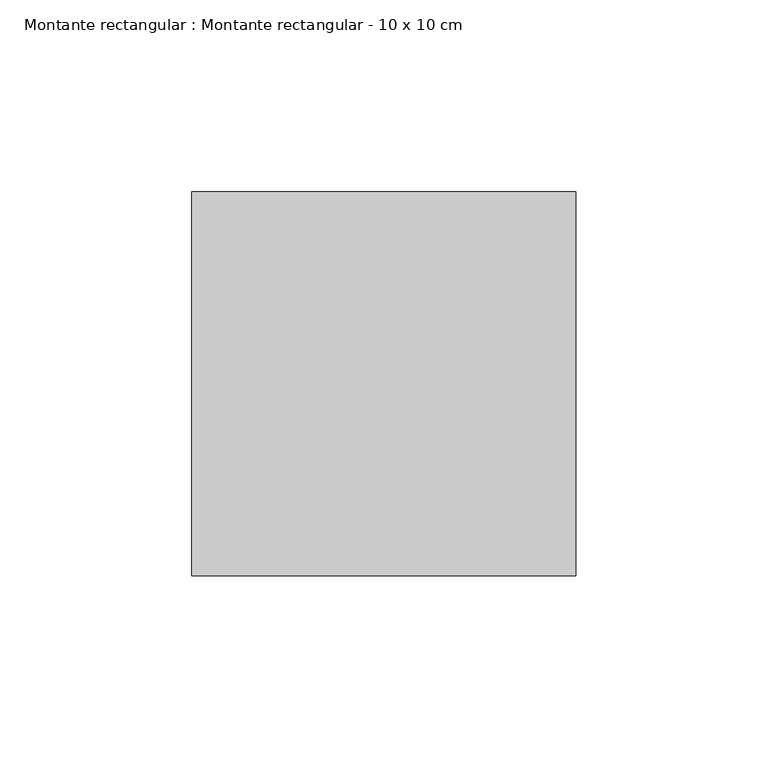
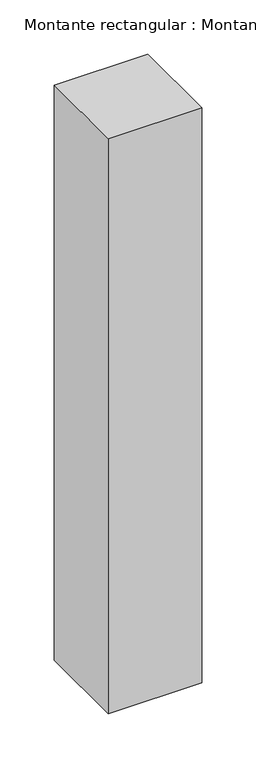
"""IFC4 building model written with IfcOpenShell, lengths in millimetres: member geometry, Montante rectangular : Montante rectangular - 10 x 10 cm."""

from ifc_helpers import new_model, si_unit, frame, origin, place, context, project, spatial, polyline, outline, extrude, source, transform, mapped, element, save


def montante_rectangular_montante_rectangular_10_x_10_cm_8664a1aa(model_context):
    return source(origin(), model_context, "Body", "SweptSolid", [
        extrude(outline(polyline([(0.0, 50.0), (0.0, -50.0), (-100.0, -50.0), (-100.0, 50.0), (0.0, 50.0)])), frame((0.0, 0.0, -650.0), z_axis=(0.0, 0.0, 1.0), x_axis=(1.0, 0.0, 0.0)), (0.0, 0.0, 1.0), 650.0),
    ])


if __name__ == "__main__":
    model = new_model("IFC4")
    model_context = context("Model", 3, world=origin())
    ifc_project = project(units=[si_unit("LENGTHUNIT", "METRE", prefix="MILLI")], contexts=[model_context])
    site = spatial("IfcSite", under=ifc_project)
    building = spatial("IfcBuilding", under=site)
    placement = place(None, origin())
    montante_rectangular_montante_rectangular_10_x_10_cm_shape = montante_rectangular_montante_rectangular_10_x_10_cm_8664a1aa(model_context)
    element("IfcMember", 1, ObjectType="Montante rectangular : Montante rectangular - 10 x 10 cm", at=placement, inside=building, context=model_context, shape_type="MappedRepresentation", body=[
        mapped(montante_rectangular_montante_rectangular_10_x_10_cm_shape, transform((0.0, 0.0, 0.0), x_axis=(1.0, 0.0, 0.0), y_axis=(0.0, 1.0, 0.0), z_axis=(0.0, 0.0, 1.0))),
    ])
    save(model, "model.ifc")
